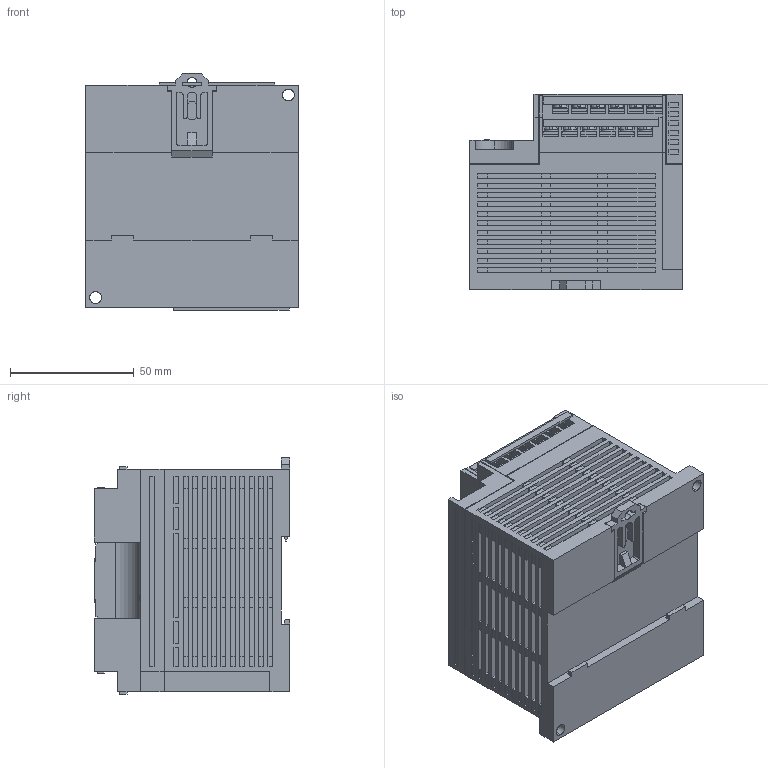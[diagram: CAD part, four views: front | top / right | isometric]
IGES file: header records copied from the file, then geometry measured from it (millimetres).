
Global section: preprocessor: SolidWorks 2010; date: 120213.170330; units: millimetre
Bounding box: 86 x 79.02 x 95.5 mm (x, y, z)
Surface area: 71072.5 mm2 (no closed solid volume)
Topology: 0 solids, 0 shells, 2064 faces, 15010 edges, 15010 vertices
Faces by surface type: bspline 1929, revolution 135
